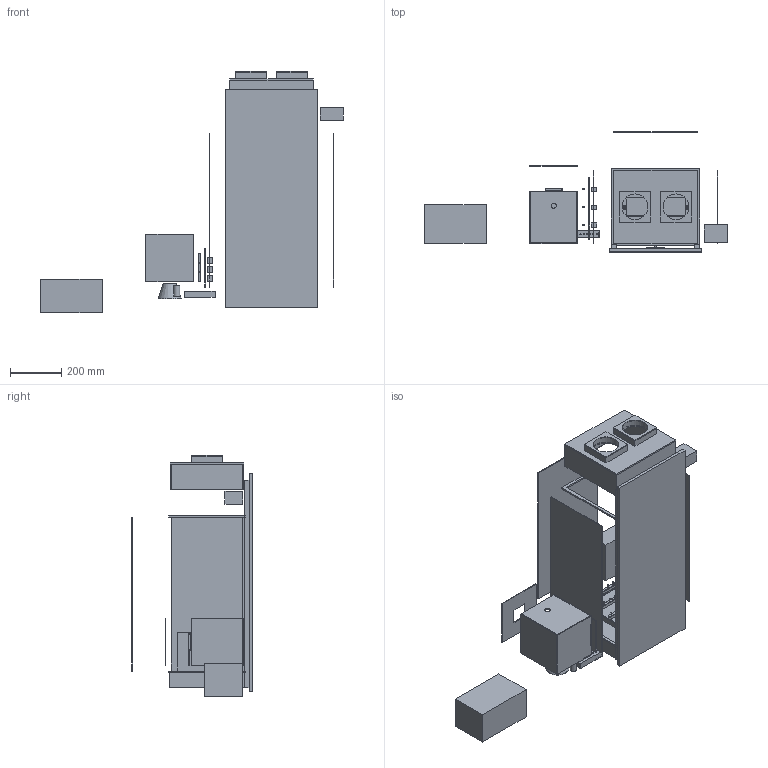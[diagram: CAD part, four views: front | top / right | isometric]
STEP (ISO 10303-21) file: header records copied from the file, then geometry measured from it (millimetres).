
FILE_DESCRIPTION(('Open CASCADE Model'),'2;1');
FILE_NAME('Open CASCADE Shape Model','2026-10-16T18:52:00',('Author'),( 'Open CASCADE'),'Open CASCADE STEP processor 7.8','Open CASCADE 7.8' ,'Unknown');
FILE_SCHEMA(('AUTOMOTIVE_DESIGN { 1 0 10303 214 1 1 1 1 }'));
Length unit declared in the file: millimetre
Products named in the file (71): FN_LAB_v03_exploded; B01; B02; B03; B04; B05; B06; C01; C02; C03; E01; E02; E03; E04; E05; E06; R01; R02; R03; R04; R05; R06; R07; ZLL; VLL; TLL; ZLC; VLC; TLC; ZLR; VLR; TLR; ZML; VML; TML; ZMC; VMC; TMC; ZMR; VMR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
Assembly tree (70 placements, depth 2):
  FN_LAB_v03_exploded
    B01
    B02
    B03
    B04
    B05
    B06
    C01
    C02
    C03
    E01
    E02
    E03
    E04
    E05
    E06
    R01
    R02
    R03
    R04
    R05
    R06
    R07
    ZLL
    VLL
    TLL
    ZLC
    VLC
    TLC
    ZLR
    VLR
    TLR
    ZML
    VML
    TML
    ZMC
    VMC
    TMC
    ZMR
    VMR
    TMR
    ZHL
    VHL
    THL
    ZHC
    VHC
    THC
    ZHR
    VHR
    THR
    G01
    G02
    G11
    G12
    G13
    V00
    R08
    R09
    M01
    H01
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Bounding box: 1180 x 469 x 941 mm (x, y, z)
Volume: 20474825.8 mm3; surface area: 4527209.6 mm2
Topology: 70 solids, 70 shells, 590 faces, 1209 edges, 806 vertices
Faces by surface type: plane 483, cylinder 105, cone 2
Full cylindrical faces by diameter (mm): 2 x27, 4 x54, 5 x1, 5.5 x2, 6 x9, 8 x1, 20 x3, 24 x1, 50 x1, 100 x2, 110 x2, 112 x2
Entity records: 33462 total; most frequent: CARTESIAN_POINT 5892, DIRECTION 5025, LINE 3193, VECTOR 3193, ORIENTED_EDGE 2418, PCURVE 2418, DEFINITIONAL_REPRESENTATION 2418, EDGE_CURVE 1209
